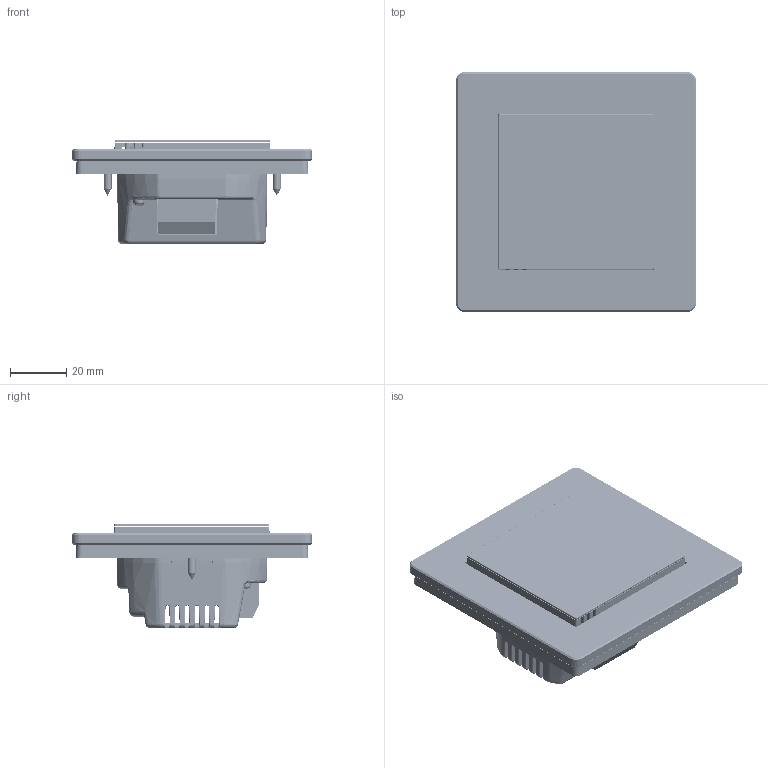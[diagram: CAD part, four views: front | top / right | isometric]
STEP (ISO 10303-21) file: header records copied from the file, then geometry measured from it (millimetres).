
FILE_DESCRIPTION(/* description */ ('','CAx-IF Rec.Pracs.---Representation and Presentation of Product Manufacturing Information (PMI)---4.0---2014-10-13'),/* implementation_level */ '2;1');
FILE_NAME(/* name */ 'FS-02.1.step',/* time_stamp */ '2025-02-23T20:02:32+01:00',/* author */ (''),/* organization */ (''),/* preprocessor_version */ 'ST-DEVELOPER v20',/* originating_system */ 'Autodesk Translation Framework v13.20.0.188',/* authorisation */ '');
FILE_SCHEMA (('AP242_MANAGED_MODEL_BASED_3D_ENGINEERING_MIM_LF { 1 0 10303 442 1 1 4 }'));
Products named in the file (25): wersja 1.3_eink; tht prosty L20; tht prosty; microUSB_pionowe; Gniazdo rast2; spod1; Plytka1.2; Led_izolator_ramka_01; szkło_eink; Gora2; PODSWIETLENIE; FS-02 FARMA v1; ramka_1; PODSTAWA RAMKI SZKLANEJ 1; logo sinum-tech; szkło RAMKI SZKLANEJ 1; 3m_01; Wkręt samogwintujący PN-EN ISO 7050 - ST 2.9 x 
9.5 - C - H Stal 8.8 Płaszczyzna v1; przełącznik szklany; tył klawisz; OP-1398_C; Blacha1.2; OP-1399_A; łączka 5; DIN ISO 7049 - C-H ST2.2 x 9.5 - C - H
Assembly tree (44 placements, depth 4):
  wersja 1.3_eink
    tht prosty L20  x8
    tht prosty  x8
    microUSB_pionowe
    Gniazdo rast2
    spod1
    Plytka1.2
    Led_izolator_ramka_01
    szkło_eink
    Gora2
    PODSWIETLENIE  x2
    FS-02 FARMA v1
    ramka_1
      PODSTAWA RAMKI SZKLANEJ 1
      logo sinum-tech
      szkło RAMKI SZKLANEJ 1
      3m_01
    Wkręt samogwintujący PN-EN ISO 7050 - ST 2.9 x 
9.5 - C - H Stal 8.8 Płaszczyzna v1  x2
    przełącznik szklany
      tył klawisz
        OP-1398_C
        łączka 5  x4
        Blacha1.2
        OP-1399_A
        DIN ISO 7049 - C-H ST2.2 x 9.5 - C - H  x2
Bounding box: 85 x 85 x 36.92 mm (x, y, z)
Volume: 67765.2 mm3; surface area: 95861.5 mm2
Topology: 59 solids, 59 shells, 7973 faces, 21982 edges, 14292 vertices
Faces by surface type: cone 3397, plane 2642, bspline 920, cylinder 753, torus 198, sphere 63
Full cylindrical faces by diameter (mm): 0.25 x1, 0.437 x1, 0.601 x1, 0.8 x4, 0.9 x4, 1 x2, 1.7 x2, 2 x1, 2.2 x2, 2.4 x2, 2.702 x4, 2.83 x2, 3 x4, 3.5 x4, 5.5 x2
Entity records: 188318 total; most frequent: CARTESIAN_POINT 56188, ORIENTED_EDGE 26950, DIRECTION 25207, EDGE_CURVE 13475, VERTEX_POINT 9738, AXIS2_PLACEMENT_3D 8683, LINE 7841, VECTOR 7841
